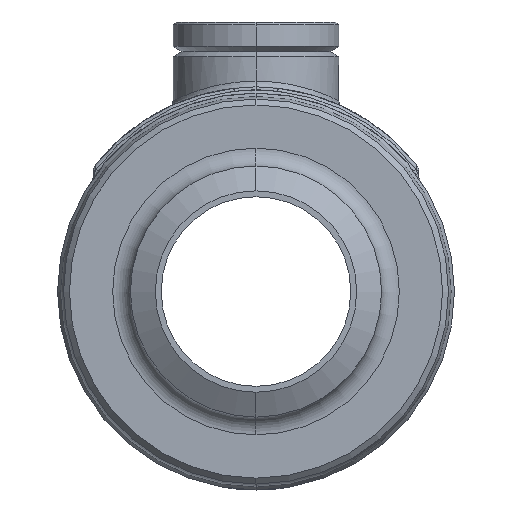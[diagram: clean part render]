
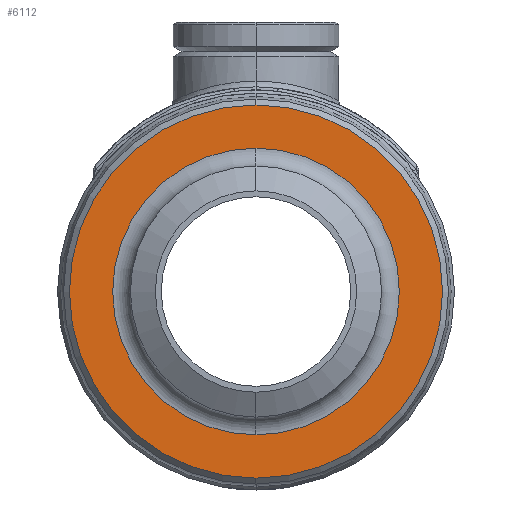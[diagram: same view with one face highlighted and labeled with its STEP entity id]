
A CAD part, left-side view. The second image highlights one B-rep face of the part: STEP entity #6112.
In plain terms, the highlighted planar face has unit normal (-1, 0, 0).
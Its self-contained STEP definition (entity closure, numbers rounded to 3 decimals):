
#561=CARTESIAN_POINT('',(-72.,0.,0.));
#562=DIRECTION('',(1.,0.,0.));
#563=DIRECTION('',(0.,0.,1.));
#564=AXIS2_PLACEMENT_3D('',#561,#562,#563);
#576=CARTESIAN_POINT('',(-72.,0.,0.));
#577=DIRECTION('',(-1.,0.,0.));
#578=DIRECTION('',(0.,0.,1.));
#579=AXIS2_PLACEMENT_3D('',#576,#577,#578);
#581=CARTESIAN_POINT('',(-72.,0.,0.));
#582=DIRECTION('',(1.,0.,0.));
#583=DIRECTION('',(0.,0.,-1.));
#584=AXIS2_PLACEMENT_3D('',#581,#582,#583);
#586=CARTESIAN_POINT('',(-72.,0.,0.));
#587=DIRECTION('',(1.,0.,0.));
#588=DIRECTION('',(0.,0.,1.));
#589=AXIS2_PLACEMENT_3D('',#586,#587,#588);
#4807=CARTESIAN_POINT('',(-72.,0.,24.2));
#4808=VERTEX_POINT('',#4807);
#4809=CARTESIAN_POINT('',(-72.,0.,-24.2));
#4810=VERTEX_POINT('',#4809);
#4847=CARTESIAN_POINT('',(-72.,0.,-31.5));
#4848=CARTESIAN_POINT('',(-72.,0.,31.5));
#4849=VERTEX_POINT('',#4847);
#4850=VERTEX_POINT('',#4848);
#6097=CARTESIAN_POINT('',(-72.,0.,0.));
#6098=DIRECTION('',(1.,0.,0.));
#6099=DIRECTION('',(0.,0.,1.));
#6100=AXIS2_PLACEMENT_3D('',#6097,#6098,#6099);
#6101=PLANE('',#6100);
#6103=ORIENTED_EDGE('',*,*,#6102,.T.);
#6105=ORIENTED_EDGE('',*,*,#6104,.T.);
#6106=EDGE_LOOP('',(#6103,#6105));
#6107=FACE_OUTER_BOUND('',#6106,.F.);
#6108=ORIENTED_EDGE('',*,*,#6092,.T.);
#6109=ORIENTED_EDGE('',*,*,#6076,.F.);
#6110=EDGE_LOOP('',(#6108,#6109));
#6111=FACE_BOUND('',#6110,.F.);
#6112=ADVANCED_FACE('',(#6107,#6111),#6101,.F.);
#565=CIRCLE('',#564,24.2);
#580=CIRCLE('',#579,24.2);
#585=CIRCLE('',#584,31.5);
#590=CIRCLE('',#589,31.5);
#6076=EDGE_CURVE('',#4808,#4810,#565,.T.);
#6092=EDGE_CURVE('',#4808,#4810,#580,.T.);
#6102=EDGE_CURVE('',#4849,#4850,#585,.T.);
#6104=EDGE_CURVE('',#4850,#4849,#590,.T.);
